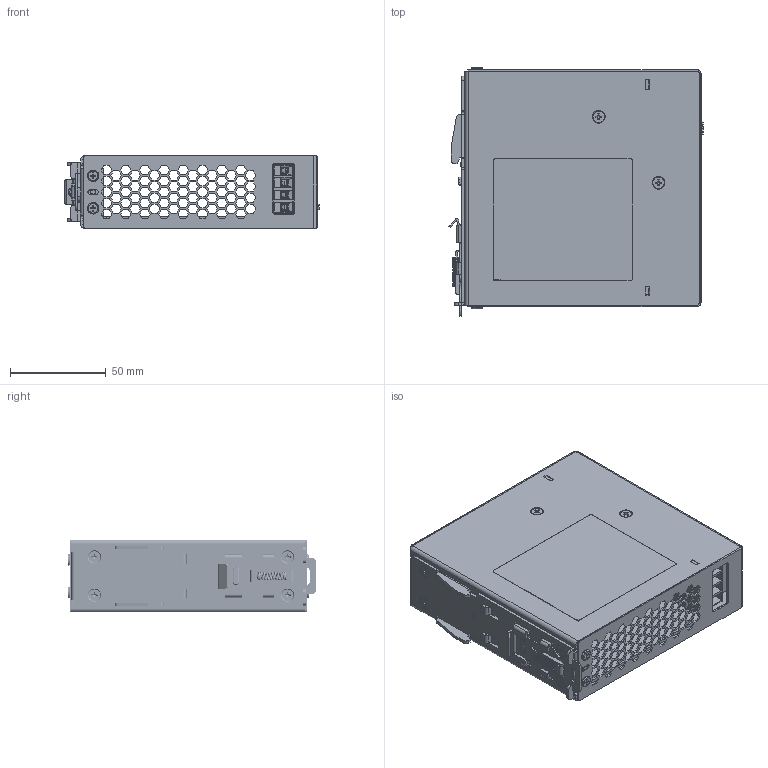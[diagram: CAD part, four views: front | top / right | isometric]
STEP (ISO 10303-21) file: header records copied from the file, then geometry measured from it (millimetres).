
FILE_DESCRIPTION((''),'2;1');
FILE_NAME('DRF-24V120W3GBA_ASM','2022-05-11T',('Warud'),(''),'CREO PARAMETRIC BY PTC INC, 2015080','CREO PARAMETRIC BY PTC INC, 2015080','');
FILE_SCHEMA(('CONFIG_CONTROL_DESIGN'));
Products named in the file (20): 330840210206; 330840200408; PWB_MAINBOARD; INPUT_DCT-1994-1; ANYTEK_307347931G_KP04; ASSY_INPUT_BOARD_SPRING_ASM; 307307817U_DEGSON; EE_LED_230025150601_GREEN; RES_VR-2; ASSY_MAINBOARD_ASM; 326820910000; 331067900202_V1; 348730840000; 346202620000_SPRING; ASSY_LATCH_V1_ASM; 326281840303; 3105320000_L6; 3105039100; 3105220800_L5; DRF-24V120W3GBA_ASM
Assembly tree (30 placements, depth 4):
  DRF-24V120W3GBA_ASM
    330840210206
    330840200408
    ASSY_MAINBOARD_ASM
      PWB_MAINBOARD
      ASSY_INPUT_BOARD_SPRING_ASM
        INPUT_DCT-1994-1
        ANYTEK_307347931G_KP04  x2
      307307817U_DEGSON
      EE_LED_230025150601_GREEN
      RES_VR-2
    326820910000
    ASSY_LATCH_V1_ASM
      331067900202_V1
      348730840000
      346202620000_SPRING
    326281840303
    3105320000_L6  x4
    3105039100  x4
    3105220800_L5  x5
Bounding box: 132.94 x 130 x 38.08 mm (x, y, z)
Volume: 106756 mm3; surface area: 179682 mm2
Topology: 30 solids, 30 shells, 5896 faces, 16301 edges, 10409 vertices
Faces by surface type: plane 4063, cylinder 1341, bspline 182, cone 172, torus 118, sphere 16, extrusion 4
Entity records: 173794 total; most frequent: CARTESIAN_POINT 37622, ORIENTED_EDGE 22022, DIRECTION 20179, EDGE_CURVE 11011, PRESENTATION_STYLE_ASSIGNMENT 10419, STYLED_ITEM 10227, CURVE_STYLE 10211, VECTOR 8625
